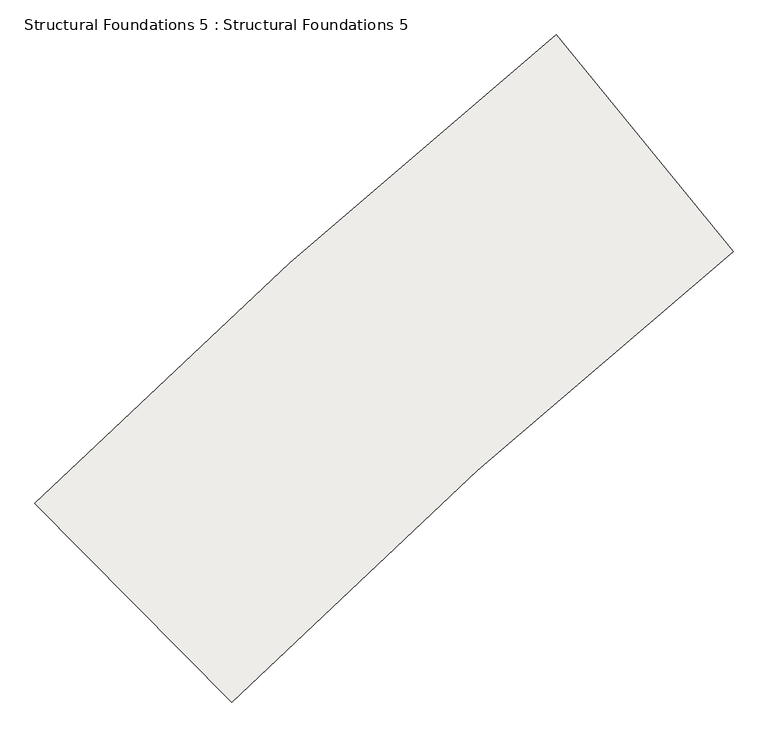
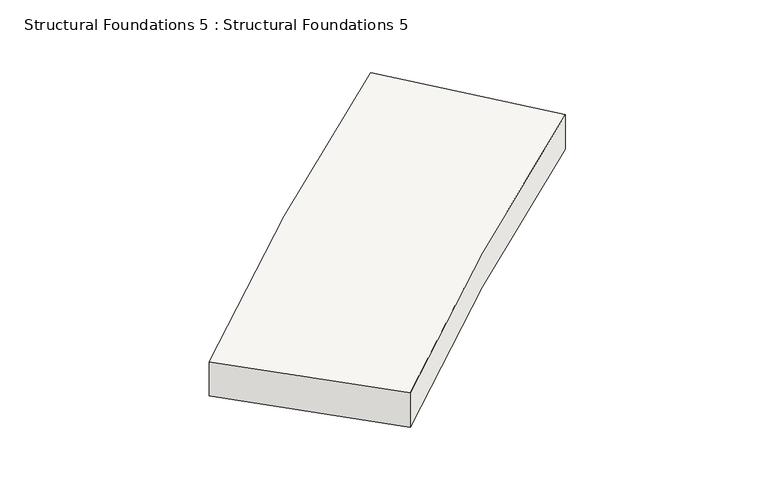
"""IFC4 building model written with IfcOpenShell, lengths in millimetres: slab geometry, Structural Foundations 5 : Structural Foundations 5."""

from ifc_helpers import new_model, si_unit, frame, origin, place, context, project, spatial, source, transform, mapped, element, save
from ifc_brep_helpers import plane_surface, spline_curve, spline_surface, advanced_brep


def structural_foundations_5_structural_foundations_5_2b4c36ed(model_context):
    return source(origin(), model_context, "Body", "AdvancedBrep", [
        advanced_brep(
        [(-326586.7657899, -471731.4288624, 633740.0), (-326586.7657899, -471731.4288624, 634440.0), (-324372.8966293, -474442.2928095, 634440.0), (-324372.8966293, -474442.2928095, 633740.0), (-333108.9009071, -477600.3356968, 633640.0), (-330643.7253657, -480084.8691085, 633640.0), (-330643.7253657, -480084.8691085, 634340.0), (-333108.9009071, -477600.3356968, 634340.0)],
        [
            (0, 1),
            (1, 2),
            (2, 3),
            (3, 0),
            (4, 5),
            (5, 6),
            (6, 7),
            (7, 4),
            (6, 2, spline_curve(3, [(-330643.7253657, -480084.8691085, 634340.0), (-329644.864018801, -479094.665609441, 634356.666666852), (-328622.062740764, -478128.60116935, 634373.333333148), (-326530.966077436, -476247.00408745, 634406.666666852), (-325462.670693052, -475331.47144591, 634423.333333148), (-324372.8966293, -474442.2928095, 634440.0)], [4, 2, 4], [0.0, 14.120608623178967, 28.241217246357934])),
            (1, 7, spline_curve(3, [(-326586.7657899, -471731.4288624, 634440.0), (-327720.226412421, -472656.284906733, 634423.333333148), (-328831.324111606, -473608.532560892, 634406.666666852), (-331006.213678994, -475565.595104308, 634373.333333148), (-332070.005546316, -476570.409992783, 634356.666666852), (-333108.9009071, -477600.3356968, 634340.0)], [4, 2, 4], [0.0, 14.120608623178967, 28.241217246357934])),
            (4, 0, spline_curve(3, [(-333108.9009071, -477600.3356968, 633640.0), (-332070.005546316, -476570.409992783, 633656.666666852), (-331006.213678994, -475565.595104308, 633673.333333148), (-328831.324111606, -473608.532560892, 633706.666666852), (-327720.226412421, -472656.284906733, 633723.333333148), (-326586.7657899, -471731.4288624, 633740.0)], [4, 2, 4], [0.0, 14.120608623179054, 28.241217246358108])),
            (3, 5, spline_curve(3, [(-324372.8966293, -474442.2928095, 633740.0), (-325462.670693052, -475331.47144591, 633723.333333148), (-326530.966077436, -476247.00408745, 633706.666666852), (-328622.062740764, -478128.60116935, 633673.333333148), (-329644.864018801, -479094.665609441, 633656.666666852), (-330643.7253657, -480084.8691085, 633640.0)], [4, 2, 4], [0.0, 14.120608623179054, 28.241217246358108])),
        ],
        [
            plane_surface(frame((-325479.8312096, -473086.8608359, 634090.0), z_axis=(0.7745325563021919, 0.632534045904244, 0.0), x_axis=(-0.632534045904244, 0.7745325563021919, 0.0))),
            plane_surface(frame((-331876.3131364, -478842.6024027, 633990.0), z_axis=(-0.7098667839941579, -0.7043359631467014, 0.0), x_axis=(0.0, 0.0, 1.0))),
            spline_surface(3, 3, [[(-333108.9009071, -477600.3356968, 634340.0), (-332070.00554623, -476570.409992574, 634356.666666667), (-331006.213678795, -475565.595104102, 634373.333333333), (-328831.324111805, -473608.532561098, 634406.666666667), (-327720.226412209, -472656.284906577, 634423.333333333), (-326586.7657899, -471731.4288624, 634440.0)], [(-332698.038316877, -478014.424598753, 634340.0), (-331665.815291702, -476991.119262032, 634356.666666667), (-330608.853960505, -475992.761710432, 634373.333333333), (-328447.932334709, -474048.278886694, 634406.666666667), (-327343.967125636, -473102.149329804, 634423.333333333), (-326217.787596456, -472183.239520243, 634440.0)], [(-332287.175726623, -478428.513500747, 634340.0), (-331261.625037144, -477411.828531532, 634356.666666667), (-330211.497928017, -476419.931530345, 634373.333333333), (-328064.536871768, -474488.02199873, 634406.666666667), (-326967.707839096, -473548.013753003, 634423.333333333), (-325848.809403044, -472635.050178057, 634440.0)], [(-331465.450546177, -479256.691304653, 634340.0), (-330453.244528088, -478253.247070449, 634356.666666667), (-329416.778491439, -477274.264743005, 634373.333333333), (-327297.753317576, -475367.514649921, 634406.666666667), (-326215.189265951, -474439.742599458, 634423.333333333), (-325110.853016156, -473538.671493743, 634440.0)], [(-331054.587955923, -479670.780206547, 634340.0), (-330049.05427353, -478673.956339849, 634356.666666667), (-329019.422458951, -477701.434562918, 634373.333333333), (-326914.357854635, -475807.257761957, 634406.666666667), (-325838.92997941, -474885.607022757, 634423.333333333), (-324741.874822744, -473990.482151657, 634440.0)], [(-330643.7253657, -480084.8691085, 634340.0), (-329644.864019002, -479094.665609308, 634356.666666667), (-328622.062740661, -478128.601169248, 634373.333333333), (-326530.966077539, -476247.004087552, 634406.666666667), (-325462.670692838, -475331.471445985, 634423.333333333), (-324372.8966293, -474442.2928095, 634440.0)]], [4, 2, 4], [4, 2, 4], [0.0, 5.741469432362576, 11.482938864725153], [0.0, 14.120608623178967, 28.241217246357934]),
            spline_surface(3, 3, [[(-330643.7253657, -480084.8691085, 633640.0), (-329644.864019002, -479094.665609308, 633656.666666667), (-328622.062740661, -478128.601169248, 633673.333333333), (-326530.966077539, -476247.004087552, 633706.666666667), (-325462.670692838, -475331.471445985, 633723.333333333), (-324372.8966293, -474442.2928095, 633740.0)], [(-331054.587955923, -479670.780206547, 633640.0), (-330049.05427353, -478673.956339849, 633656.666666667), (-329019.422458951, -477701.434562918, 633673.333333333), (-326914.357854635, -475807.257761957, 633706.666666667), (-325838.92997941, -474885.607022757, 633723.333333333), (-324741.874822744, -473990.482151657, 633740.0)], [(-331465.450546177, -479256.691304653, 633640.0), (-330453.244528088, -478253.247070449, 633656.666666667), (-329416.778491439, -477274.264743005, 633673.333333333), (-327297.753317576, -475367.514649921, 633706.666666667), (-326215.189265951, -474439.742599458, 633723.333333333), (-325110.853016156, -473538.671493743, 633740.0)], [(-332287.175726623, -478428.513500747, 633640.0), (-331261.625037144, -477411.828531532, 633656.666666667), (-330211.497928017, -476419.931530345, 633673.333333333), (-328064.536871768, -474488.02199873, 633706.666666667), (-326967.707839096, -473548.013753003, 633723.333333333), (-325848.809403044, -472635.050178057, 633740.0)], [(-332698.038316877, -478014.424598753, 633640.0), (-331665.815291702, -476991.119262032, 633656.666666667), (-330608.853960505, -475992.761710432, 633673.333333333), (-328447.932334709, -474048.278886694, 633706.666666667), (-327343.967125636, -473102.149329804, 633723.333333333), (-326217.787596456, -472183.239520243, 633740.0)], [(-333108.9009071, -477600.3356968, 633640.0), (-332070.00554623, -476570.409992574, 633656.666666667), (-331006.213678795, -475565.595104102, 633673.333333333), (-328831.324111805, -473608.532561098, 633706.666666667), (-327720.226412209, -472656.284906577, 633723.333333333), (-326586.7657899, -471731.4288624, 633740.0)]], [4, 2, 4], [4, 2, 4], [0.0, 5.741469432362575, 11.48293886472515], [0.0, 14.120608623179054, 28.241217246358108]),
            spline_surface(3, 3, [[(-333108.9009071, -477600.3356968, 633640.0), (-332070.00554623, -476570.409992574, 633656.666666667), (-331006.213678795, -475565.595104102, 633673.333333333), (-328831.324111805, -473608.532561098, 633706.666666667), (-327720.226412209, -472656.284906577, 633723.333333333), (-326586.7657899, -471731.4288624, 633740.0)], [(-333108.9009071, -477600.3356968, 633756.666666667), (-332070.00554623, -476570.409992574, 633773.333333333), (-331006.213678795, -475565.595104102, 633790.0), (-328831.324111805, -473608.532561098, 633823.333333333), (-327720.226412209, -472656.284906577, 633840.0), (-326586.7657899, -471731.4288624, 633856.666666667)], [(-333108.9009071, -477600.3356968, 633873.333333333), (-332070.00554623, -476570.409992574, 633890.0), (-331006.213678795, -475565.595104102, 633906.666666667), (-328831.324111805, -473608.532561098, 633940.0), (-327720.226412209, -472656.284906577, 633956.666666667), (-326586.7657899, -471731.4288624, 633973.333333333)], [(-333108.9009071, -477600.3356968, 634106.666666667), (-332070.00554623, -476570.409992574, 634123.333333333), (-331006.213678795, -475565.595104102, 634140.0), (-328831.324111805, -473608.532561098, 634173.333333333), (-327720.226412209, -472656.284906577, 634190.0), (-326586.7657899, -471731.4288624, 634206.666666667)], [(-333108.9009071, -477600.3356968, 634223.333333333), (-332070.00554623, -476570.409992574, 634240.0), (-331006.213678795, -475565.595104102, 634256.666666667), (-328831.324111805, -473608.532561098, 634290.0), (-327720.226412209, -472656.284906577, 634306.666666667), (-326586.7657899, -471731.4288624, 634323.333333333)], [(-333108.9009071, -477600.3356968, 634340.0), (-332070.00554623, -476570.409992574, 634356.666666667), (-331006.213678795, -475565.595104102, 634373.333333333), (-328831.324111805, -473608.532561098, 634406.666666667), (-327720.226412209, -472656.284906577, 634423.333333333), (-326586.7657899, -471731.4288624, 634440.0)]], [4, 2, 4], [4, 2, 4], [0.0, 1.1482939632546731, 2.2965879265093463], [0.0, 14.398066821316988, 28.796133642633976]),
            spline_surface(3, 3, [[(-330643.7253657, -480084.8691085, 634340.0), (-329644.864019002, -479094.665609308, 634356.666666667), (-328622.062740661, -478128.601169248, 634373.333333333), (-326530.966077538, -476247.004087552, 634406.666666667), (-325462.670692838, -475331.471445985, 634423.333333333), (-324372.8966293, -474442.2928095, 634440.0)], [(-330643.7253657, -480084.8691085, 634223.333333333), (-329644.864019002, -479094.665609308, 634240.0), (-328622.062740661, -478128.601169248, 634256.666666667), (-326530.966077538, -476247.004087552, 634290.0), (-325462.670692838, -475331.471445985, 634306.666666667), (-324372.8966293, -474442.2928095, 634323.333333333)], [(-330643.7253657, -480084.8691085, 634106.666666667), (-329644.864019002, -479094.665609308, 634123.333333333), (-328622.062740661, -478128.601169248, 634140.0), (-326530.966077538, -476247.004087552, 634173.333333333), (-325462.670692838, -475331.471445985, 634190.0), (-324372.8966293, -474442.2928095, 634206.666666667)], [(-330643.7253657, -480084.8691085, 633873.333333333), (-329644.864019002, -479094.665609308, 633890.0), (-328622.062740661, -478128.601169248, 633906.666666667), (-326530.966077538, -476247.004087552, 633940.0), (-325462.670692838, -475331.471445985, 633956.666666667), (-324372.8966293, -474442.2928095, 633973.333333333)], [(-330643.7253657, -480084.8691085, 633756.666666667), (-329644.864019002, -479094.665609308, 633773.333333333), (-328622.062740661, -478128.601169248, 633790.0), (-326530.966077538, -476247.004087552, 633823.333333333), (-325462.670692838, -475331.471445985, 633840.0), (-324372.8966293, -474442.2928095, 633856.666666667)], [(-330643.7253657, -480084.8691085, 633640.0), (-329644.864019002, -479094.665609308, 633656.666666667), (-328622.062740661, -478128.601169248, 633673.333333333), (-326530.966077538, -476247.004087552, 633706.666666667), (-325462.670692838, -475331.471445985, 633723.333333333), (-324372.8966293, -474442.2928095, 633740.0)]], [4, 2, 4], [4, 2, 4], [0.0, 1.1482939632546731, 2.2965879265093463], [0.0, 13.843151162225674, 27.686302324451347]),
        ],
        [
            (0, [[1, 2, 3, 4]]),
            (1, [[5, 6, 7, 8]]),
            (2, [[-7, 9, -2, 10]]),
            (3, [[-5, 11, -4, 12]]),
            (4, [[-8, -10, -1, -11]]),
            (5, [[-6, -12, -3, -9]]),
        ],
    ),
    ])


if __name__ == "__main__":
    model = new_model("IFC4")
    model_context = context("Model", 3, world=origin())
    ifc_project = project(units=[si_unit("LENGTHUNIT", "METRE", prefix="MILLI")], contexts=[model_context])
    site = spatial("IfcSite", under=ifc_project)
    building = spatial("IfcBuilding", under=site)
    placement = place(None, origin())
    structural_foundations_5_structural_foundations_5_shape = structural_foundations_5_structural_foundations_5_2b4c36ed(model_context)
    element("IfcSlab", 1, ObjectType="Structural Foundations 5 : Structural Foundations 5", at=placement, inside=building, context=model_context, shape_type="MappedRepresentation", body=[
        mapped(structural_foundations_5_structural_foundations_5_shape, transform((0.0, 0.0, 0.0), x_axis=(1.0, 0.0, 0.0), y_axis=(0.0, 1.0, 0.0), z_axis=(0.0, 0.0, 1.0))),
    ])
    save(model, "model.ifc")
